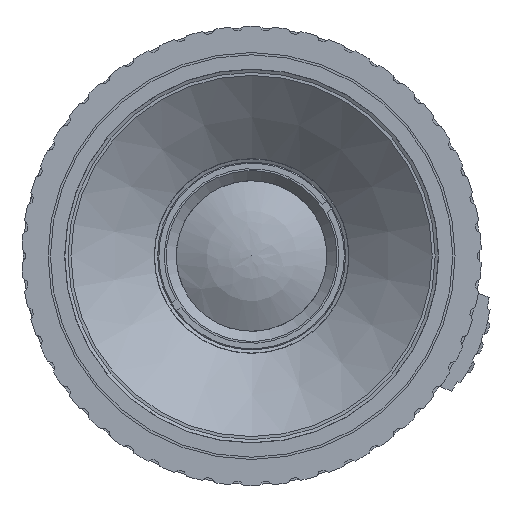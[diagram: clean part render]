
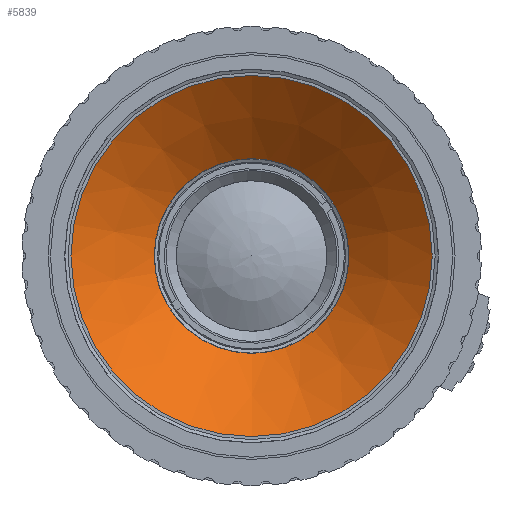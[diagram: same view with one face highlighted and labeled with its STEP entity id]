
A CAD part, front view. The second image highlights one B-rep face of the part: STEP entity #5839.
In plain terms, the highlighted conical face has half-angle 50 degrees and reference radius 19.657 mm.
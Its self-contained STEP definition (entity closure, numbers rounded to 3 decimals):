
#3394=CONICAL_SURFACE('',#12004,19.657,50.);
#3817=FACE_OUTER_BOUND('',#6619,.T.);
#5839=ADVANCED_FACE('',(#6417,#3817),#3394,.F.);
#6417=FACE_BOUND('',#6618,.T.);
#6618=EDGE_LOOP('',(#7361));
#6619=EDGE_LOOP('',(#7362));
#7361=ORIENTED_EDGE('',*,*,#10490,.F.);
#7362=ORIENTED_EDGE('',*,*,#10488,.T.);
#9704=VERTEX_POINT('',#15695);
#9706=VERTEX_POINT('',#15700);
#10488=EDGE_CURVE('',#9704,#9704,#11570,.T.);
#10490=EDGE_CURVE('',#9706,#9706,#11572,.T.);
#11570=CIRCLE('',#12000,19.657);
#11572=CIRCLE('',#12003,10.6);
#12000=AXIS2_PLACEMENT_3D('',#15694,#13128,#13129);
#12003=AXIS2_PLACEMENT_3D('',#15699,#13134,#13135);
#12004=AXIS2_PLACEMENT_3D('',#15701,#13136,#13137);
#13128=DIRECTION('',(0.,-1.,0.));
#13129=DIRECTION('',(0.,0.,-1.));
#13134=DIRECTION('',(0.,-1.,0.));
#13135=DIRECTION('',(0.,0.,-1.));
#13136=DIRECTION('',(0.,-1.,0.));
#13137=DIRECTION('',(0.,0.,-1.));
#15694=CARTESIAN_POINT('',(0.,-19.532,0.));
#15695=CARTESIAN_POINT('',(0.,-19.532,-19.657));
#15699=CARTESIAN_POINT('',(0.,-11.932,0.));
#15700=CARTESIAN_POINT('',(0.,-11.932,-10.6));
#15701=CARTESIAN_POINT('',(0.,-19.532,0.));
